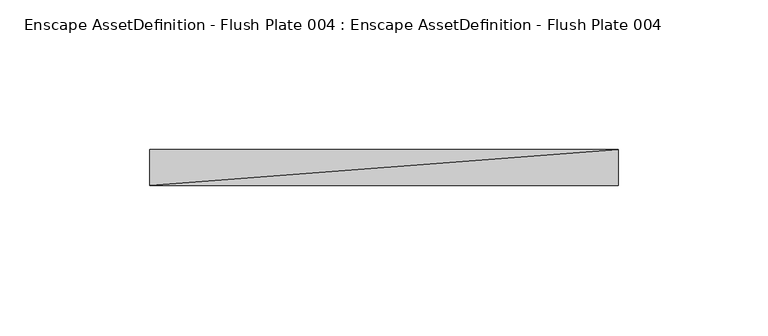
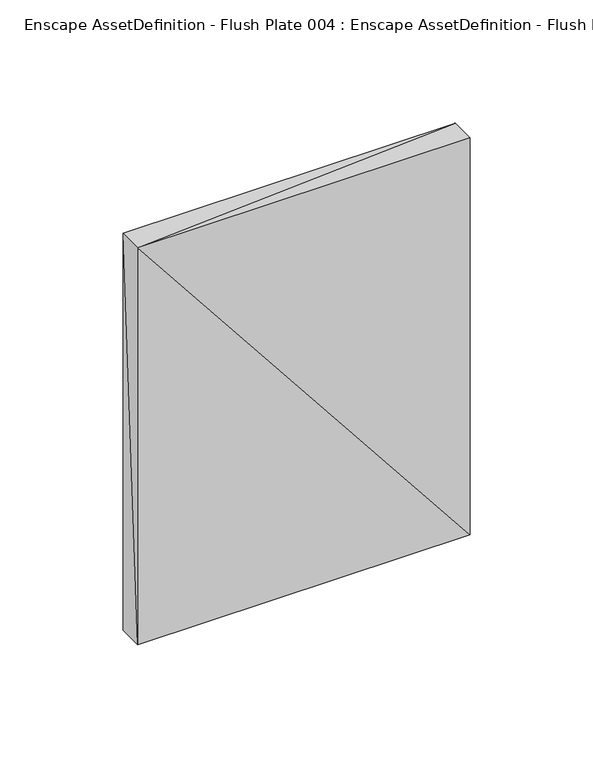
"""IFC4 building model written with IfcOpenShell, lengths in millimetres: geographic element geometry, Enscape AssetDefinition - Flush Plate 004 : Enscape AssetDefinition - Flush Plate 004."""

from ifc_helpers import new_model, si_unit, origin, place, context, project, spatial, faceted_brep, source, transform, mapped, element, save


def enscape_assetdefinition_flush_plate_004_enscape_ecd54baf(model_context):
    return source(origin(), model_context, "Body", "Brep", [
        faceted_brep([(-78.0000016, 0.0, 98.4999985), (-78.0000016, -12.0000001, -98.4999985), (-78.0000016, -12.0000001, 98.4999985), (-78.0000016, 0.0, -98.4999985), (78.0000016, 0.0, 98.4999985), (78.0000016, 0.0, -98.4999985), (78.0000016, -12.0000001, 98.4999985), (78.0000016, -12.0000001, -98.4999985)], [[[0, 1, 2]], [[3, 1, 0]], [[4, 3, 0]], [[5, 3, 4]], [[6, 5, 4]], [[7, 5, 6]], [[2, 7, 6]], [[1, 7, 2]], [[7, 3, 5]], [[1, 3, 7]], [[2, 4, 0]], [[6, 4, 2]]]),
    ])


if __name__ == "__main__":
    model = new_model("IFC4")
    model_context = context("Model", 3, world=origin())
    ifc_project = project(units=[si_unit("LENGTHUNIT", "METRE", prefix="MILLI")], contexts=[model_context])
    site = spatial("IfcSite", under=ifc_project)
    building = spatial("IfcBuilding", under=site)
    placement = place(None, origin())
    enscape_assetdefinition_flush_plate_004_enscape_shape = enscape_assetdefinition_flush_plate_004_enscape_ecd54baf(model_context)
    element("IfcGeographicElement", 1, ObjectType="Enscape AssetDefinition - Flush Plate 004 : Enscape AssetDefinition - Flush Plate 004", at=placement, inside=building, context=model_context, shape_type="MappedRepresentation", body=[
        mapped(enscape_assetdefinition_flush_plate_004_enscape_shape, transform((0.0, 0.0, 0.0), x_axis=(1.0, 0.0, 0.0), y_axis=(0.0, 1.0, 0.0), z_axis=(0.0, 0.0, 1.0))),
    ])
    save(model, "model.ifc")
